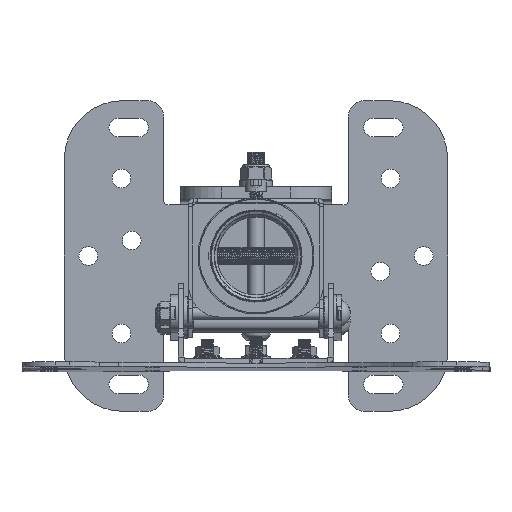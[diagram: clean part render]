
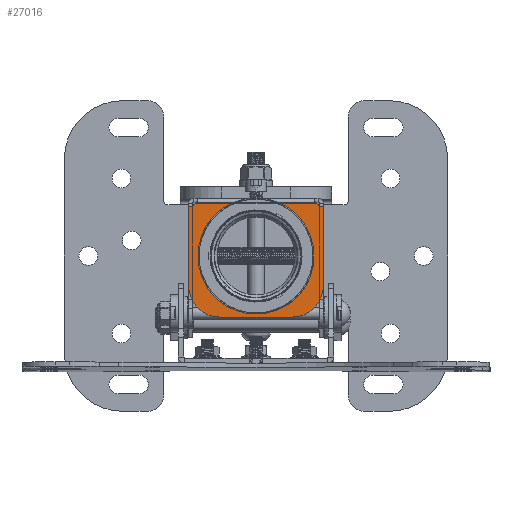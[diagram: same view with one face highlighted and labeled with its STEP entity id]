
A CAD part, front view. The second image highlights one B-rep face of the part: STEP entity #27016.
In plain terms, the highlighted planar face has unit normal (0, -1, 0).
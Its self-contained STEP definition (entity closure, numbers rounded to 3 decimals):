
#1977=LINE('',#40449,#3446);
#1978=LINE('',#40453,#3447);
#1979=LINE('',#40457,#3448);
#1980=LINE('',#40461,#3449);
#1981=LINE('',#40464,#3450);
#3446=VECTOR('',#31669,58.25);
#3447=VECTOR('',#31672,38.3);
#3448=VECTOR('',#31675,35.);
#3449=VECTOR('',#31678,38.3);
#3450=VECTOR('',#31681,58.25);
#5713=FACE_OUTER_BOUND('',#7191,.T.);
#7191=EDGE_LOOP('',(#17312,#17313,#17314,#17315,#17316,#17317,#17318,#17319,
#17320,#17321,#17322));
#8826=CIRCLE('',#28558,27.5);
#8827=CIRCLE('',#28559,27.5);
#8873=CIRCLE('',#28644,4.2);
#8874=CIRCLE('',#28645,15.);
#8875=CIRCLE('',#28646,15.);
#8876=CIRCLE('',#28647,4.2);
#10085=VERTEX_POINT('',#40072);
#10086=VERTEX_POINT('',#40073);
#10120=VERTEX_POINT('',#40151);
#10182=VERTEX_POINT('',#40448);
#10183=VERTEX_POINT('',#40450);
#10184=VERTEX_POINT('',#40452);
#10185=VERTEX_POINT('',#40454);
#10186=VERTEX_POINT('',#40456);
#10187=VERTEX_POINT('',#40458);
#10188=VERTEX_POINT('',#40460);
#10189=VERTEX_POINT('',#40462);
#12831=EDGE_CURVE('',#10120,#10085,#8826,.T.);
#12832=EDGE_CURVE('',#10086,#10120,#8827,.T.);
#12938=EDGE_CURVE('',#10086,#10182,#1977,.T.);
#12939=EDGE_CURVE('',#10183,#10182,#8873,.T.);
#12940=EDGE_CURVE('',#10183,#10184,#1978,.T.);
#12941=EDGE_CURVE('',#10184,#10185,#8874,.T.);
#12942=EDGE_CURVE('',#10185,#10186,#1979,.T.);
#12943=EDGE_CURVE('',#10186,#10187,#8875,.T.);
#12944=EDGE_CURVE('',#10187,#10188,#1980,.T.);
#12945=EDGE_CURVE('',#10189,#10188,#8876,.T.);
#12946=EDGE_CURVE('',#10189,#10085,#1981,.T.);
#17312=ORIENTED_EDGE('',*,*,#12832,.F.);
#17313=ORIENTED_EDGE('',*,*,#12938,.T.);
#17314=ORIENTED_EDGE('',*,*,#12939,.F.);
#17315=ORIENTED_EDGE('',*,*,#12940,.T.);
#17316=ORIENTED_EDGE('',*,*,#12941,.T.);
#17317=ORIENTED_EDGE('',*,*,#12942,.T.);
#17318=ORIENTED_EDGE('',*,*,#12943,.T.);
#17319=ORIENTED_EDGE('',*,*,#12944,.T.);
#17320=ORIENTED_EDGE('',*,*,#12945,.F.);
#17321=ORIENTED_EDGE('',*,*,#12946,.T.);
#17322=ORIENTED_EDGE('',*,*,#12831,.F.);
#25003=PLANE('',#28643);
#27016=ADVANCED_FACE('',(#5713),#25003,.T.);
#28558=AXIS2_PLACEMENT_3D('',#40153,#31451,#31452);
#28559=AXIS2_PLACEMENT_3D('',#40154,#31453,#31454);
#28643=AXIS2_PLACEMENT_3D('',#40447,#31667,#31668);
#28644=AXIS2_PLACEMENT_3D('',#40451,#31670,#31671);
#28645=AXIS2_PLACEMENT_3D('',#40455,#31673,#31674);
#28646=AXIS2_PLACEMENT_3D('',#40459,#31676,#31677);
#28647=AXIS2_PLACEMENT_3D('',#40463,#31679,#31680);
#31451=DIRECTION('center_axis',(0.,-1.,0.));
#31452=DIRECTION('ref_axis',(0.,0.,-1.));
#31453=DIRECTION('center_axis',(0.,-1.,0.));
#31454=DIRECTION('ref_axis',(0.,0.,-1.));
#31667=DIRECTION('center_axis',(0.,-1.,0.));
#31668=DIRECTION('ref_axis',(-1.,0.,0.));
#31669=DIRECTION('',(-1.,0.,0.));
#31670=DIRECTION('center_axis',(0.,-1.,0.));
#31671=DIRECTION('ref_axis',(0.,0.,-1.));
#31672=DIRECTION('',(0.,0.,-1.));
#31673=DIRECTION('center_axis',(0.,-1.,0.));
#31674=DIRECTION('ref_axis',(-1.,0.,0.));
#31675=DIRECTION('',(1.,0.,0.));
#31676=DIRECTION('center_axis',(0.,-1.,0.));
#31677=DIRECTION('ref_axis',(0.,0.,-1.));
#31678=DIRECTION('',(0.,0.,1.));
#31679=DIRECTION('center_axis',(0.,-1.,0.));
#31680=DIRECTION('ref_axis',(-0.804,0.,-0.595));
#31681=DIRECTION('',(-1.,0.,0.));
#40072=CARTESIAN_POINT('',(10.296,-1608.,25.5));
#40073=CARTESIAN_POINT('',(-10.296,-1608.,25.5));
#40151=CARTESIAN_POINT('',(27.5,-1608.,-0.126));
#40153=CARTESIAN_POINT('Origin',(0.,-1608.,0.));
#40154=CARTESIAN_POINT('Origin',(0.,-1608.,0.));
#40447=CARTESIAN_POINT('Origin',(-32.5,-1608.,28.));
#40448=CARTESIAN_POINT('',(-29.125,-1608.,25.5));
#40449=CARTESIAN_POINT('',(29.125,-1608.,25.5));
#40450=CARTESIAN_POINT('',(-32.5,-1608.,23.8));
#40451=CARTESIAN_POINT('Origin',(-32.5,-1608.,28.));
#40452=CARTESIAN_POINT('',(-32.5,-1608.,-14.5));
#40453=CARTESIAN_POINT('',(-32.5,-1608.,23.8));
#40454=CARTESIAN_POINT('',(-17.5,-1608.,-29.5));
#40455=CARTESIAN_POINT('Origin',(-17.5,-1608.,-14.5));
#40456=CARTESIAN_POINT('',(17.5,-1608.,-29.5));
#40457=CARTESIAN_POINT('',(-17.5,-1608.,-29.5));
#40458=CARTESIAN_POINT('',(32.5,-1608.,-14.5));
#40459=CARTESIAN_POINT('Origin',(17.5,-1608.,-14.5));
#40460=CARTESIAN_POINT('',(32.5,-1608.,23.8));
#40461=CARTESIAN_POINT('',(32.5,-1608.,-14.5));
#40462=CARTESIAN_POINT('',(29.125,-1608.,25.5));
#40463=CARTESIAN_POINT('Origin',(32.5,-1608.,28.));
#40464=CARTESIAN_POINT('',(29.125,-1608.,25.5));
